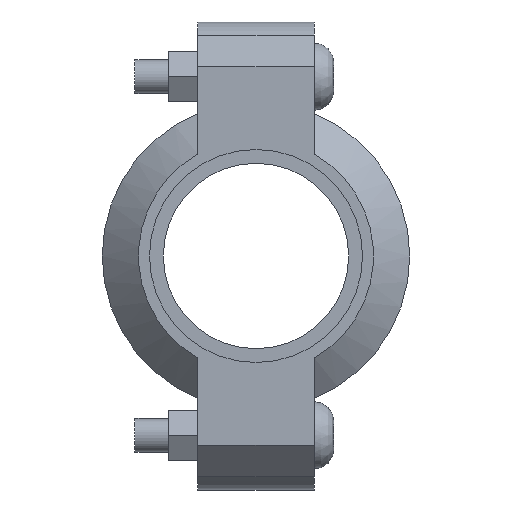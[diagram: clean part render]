
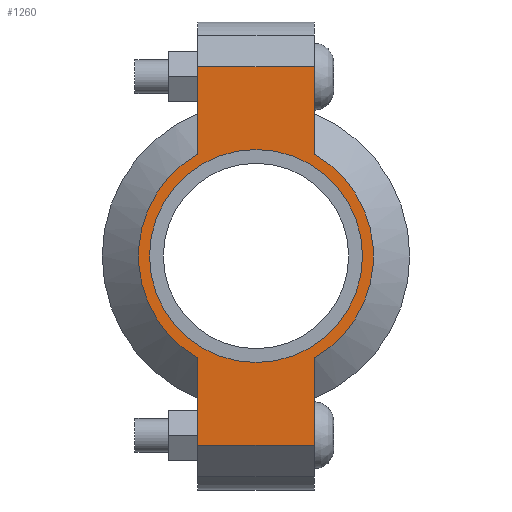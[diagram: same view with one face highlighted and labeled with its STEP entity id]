
A CAD part, left-side view. The second image highlights one B-rep face of the part: STEP entity #1260.
In plain terms, the highlighted planar face has unit normal (-1, 0, 0) as drawn and (0, 0, 1) by its records, which use the part's own axes.
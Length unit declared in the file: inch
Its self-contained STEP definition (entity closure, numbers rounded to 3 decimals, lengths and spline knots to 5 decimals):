
#101=LINE('',#2165,#188);
#109=LINE('',#2201,#196);
#116=LINE('',#2222,#203);
#125=LINE('',#2254,#212);
#126=LINE('',#2258,#213);
#127=LINE('',#2260,#214);
#188=VECTOR('',#1764,0.3937);
#196=VECTOR('',#1780,0.3937);
#203=VECTOR('',#1799,0.3937);
#212=VECTOR('',#1824,0.3937);
#213=VECTOR('',#1829,0.3937);
#214=VECTOR('',#1830,0.3937);
#258=FACE_BOUND('',#406,.T.);
#318=FACE_OUTER_BOUND('',#405,.T.);
#405=EDGE_LOOP('',(#1032,#1033,#1034,#1035,#1036,#1037,#1038,#1039));
#406=EDGE_LOOP('',(#1040));
#454=CIRCLE('',#1424,1.1875);
#480=CIRCLE('',#1483,1.31);
#481=CIRCLE('',#1484,1.31);
#522=VERTEX_POINT('',#1981);
#565=VERTEX_POINT('',#2162);
#566=VERTEX_POINT('',#2164);
#577=VERTEX_POINT('',#2196);
#578=VERTEX_POINT('',#2200);
#585=VERTEX_POINT('',#2219);
#586=VERTEX_POINT('',#2221);
#596=VERTEX_POINT('',#2257);
#597=VERTEX_POINT('',#2259);
#648=EDGE_CURVE('',#522,#522,#454,.T.);
#709=EDGE_CURVE('',#566,#565,#101,.T.);
#723=EDGE_CURVE('',#578,#577,#109,.T.);
#733=EDGE_CURVE('',#586,#585,#116,.T.);
#748=EDGE_CURVE('',#578,#565,#125,.T.);
#749=EDGE_CURVE('',#577,#586,#480,.T.);
#750=EDGE_CURVE('',#596,#585,#126,.T.);
#751=EDGE_CURVE('',#596,#597,#127,.T.);
#752=EDGE_CURVE('',#597,#566,#481,.T.);
#1032=ORIENTED_EDGE('',*,*,#748,.F.);
#1033=ORIENTED_EDGE('',*,*,#723,.T.);
#1034=ORIENTED_EDGE('',*,*,#749,.T.);
#1035=ORIENTED_EDGE('',*,*,#733,.T.);
#1036=ORIENTED_EDGE('',*,*,#750,.F.);
#1037=ORIENTED_EDGE('',*,*,#751,.T.);
#1038=ORIENTED_EDGE('',*,*,#752,.T.);
#1039=ORIENTED_EDGE('',*,*,#709,.T.);
#1040=ORIENTED_EDGE('',*,*,#648,.T.);
#1127=PLANE('',#1482);
#1260=ADVANCED_FACE('',(#318,#258),#1127,.T.);
#1424=AXIS2_PLACEMENT_3D('',#1983,#1640,#1641);
#1482=AXIS2_PLACEMENT_3D('',#2255,#1825,#1826);
#1483=AXIS2_PLACEMENT_3D('',#2256,#1827,#1828);
#1484=AXIS2_PLACEMENT_3D('',#2261,#1831,#1832);
#1640=DIRECTION('center_axis',(0.,0.,-1.));
#1641=DIRECTION('ref_axis',(-1.,0.,0.));
#1764=DIRECTION('',(-1.,0.,0.));
#1780=DIRECTION('',(1.,0.,0.));
#1799=DIRECTION('',(1.,0.,0.));
#1824=DIRECTION('',(0.,1.,0.));
#1825=DIRECTION('center_axis',(0.,0.,1.));
#1826=DIRECTION('ref_axis',(1.,0.,0.));
#1827=DIRECTION('center_axis',(0.,0.,1.));
#1828=DIRECTION('ref_axis',(-1.,0.,0.));
#1829=DIRECTION('',(0.,-1.,0.));
#1830=DIRECTION('',(-1.,0.,0.));
#1831=DIRECTION('center_axis',(0.,0.,1.));
#1832=DIRECTION('ref_axis',(-1.,0.,0.));
#1981=CARTESIAN_POINT('',(1.1875,0.,0.94));
#1983=CARTESIAN_POINT('Origin',(0.,0.,0.94));
#2162=CARTESIAN_POINT('',(-2.11,0.65,0.94));
#2164=CARTESIAN_POINT('',(-1.13737,0.65,0.94));
#2165=CARTESIAN_POINT('',(-2.61,0.65,0.94));
#2196=CARTESIAN_POINT('',(-1.13737,-0.65,0.94));
#2200=CARTESIAN_POINT('',(-2.11,-0.65,0.94));
#2201=CARTESIAN_POINT('',(2.61,-0.65,0.94));
#2219=CARTESIAN_POINT('',(2.11,-0.65,0.94));
#2221=CARTESIAN_POINT('',(1.13737,-0.65,0.94));
#2222=CARTESIAN_POINT('',(2.61,-0.65,0.94));
#2254=CARTESIAN_POINT('',(-2.11,0.325,0.94));
#2255=CARTESIAN_POINT('Origin',(0.,0.,0.94));
#2256=CARTESIAN_POINT('Origin',(0.,0.,0.94));
#2257=CARTESIAN_POINT('',(2.11,0.65,0.94));
#2258=CARTESIAN_POINT('',(2.11,-0.325,0.94));
#2259=CARTESIAN_POINT('',(1.13737,0.65,0.94));
#2260=CARTESIAN_POINT('',(-2.61,0.65,0.94));
#2261=CARTESIAN_POINT('Origin',(0.,0.,0.94));
